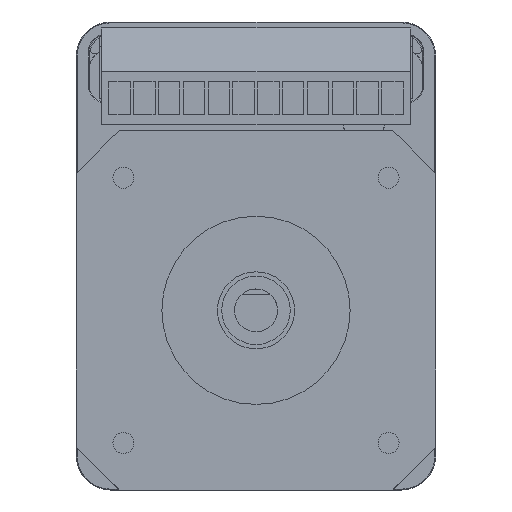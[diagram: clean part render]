
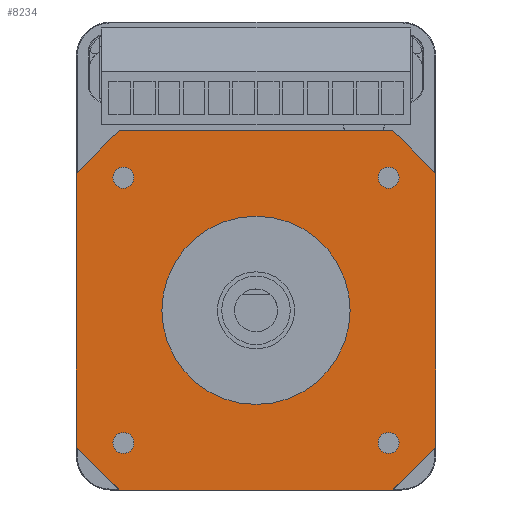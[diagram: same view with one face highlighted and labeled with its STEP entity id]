
A CAD part, front view. The second image highlights one B-rep face of the part: STEP entity #8234.
In plain terms, the highlighted planar face has unit normal (0, -1, 0).
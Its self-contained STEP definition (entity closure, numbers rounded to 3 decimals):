
#169=CIRCLE('',#8612,1.23);
#170=CIRCLE('',#8613,1.23);
#171=CIRCLE('',#8614,1.23);
#172=CIRCLE('',#8615,1.23);
#173=CIRCLE('',#8616,11.);
#478=ORIENTED_EDGE('',*,*,#2108,.F.);
#479=ORIENTED_EDGE('',*,*,#2109,.F.);
#480=ORIENTED_EDGE('',*,*,#2110,.F.);
#481=ORIENTED_EDGE('',*,*,#2111,.F.);
#482=ORIENTED_EDGE('',*,*,#2112,.F.);
#483=ORIENTED_EDGE('',*,*,#2095,.F.);
#484=ORIENTED_EDGE('',*,*,#2113,.T.);
#485=ORIENTED_EDGE('',*,*,#2083,.F.);
#486=ORIENTED_EDGE('',*,*,#2114,.T.);
#487=ORIENTED_EDGE('',*,*,#2072,.F.);
#488=ORIENTED_EDGE('',*,*,#2115,.T.);
#489=ORIENTED_EDGE('',*,*,#2061,.F.);
#490=ORIENTED_EDGE('',*,*,#2116,.T.);
#2061=EDGE_CURVE('',#2879,#2880,#3418,.T.);
#2072=EDGE_CURVE('',#2889,#2890,#3429,.T.);
#2083=EDGE_CURVE('',#2899,#2900,#3440,.T.);
#2095=EDGE_CURVE('',#2909,#2910,#3452,.T.);
#2108=EDGE_CURVE('',#2919,#2919,#169,.T.);
#2109=EDGE_CURVE('',#2920,#2920,#170,.T.);
#2110=EDGE_CURVE('',#2921,#2921,#171,.T.);
#2111=EDGE_CURVE('',#2922,#2922,#172,.T.);
#2112=EDGE_CURVE('',#2923,#2923,#173,.T.);
#2113=EDGE_CURVE('',#2909,#2900,#3462,.F.);
#2114=EDGE_CURVE('',#2899,#2890,#3463,.F.);
#2115=EDGE_CURVE('',#2889,#2880,#3464,.F.);
#2116=EDGE_CURVE('',#2879,#2910,#3465,.F.);
#2879=VERTEX_POINT('',#11028);
#2880=VERTEX_POINT('',#11030);
#2889=VERTEX_POINT('',#11051);
#2890=VERTEX_POINT('',#11052);
#2899=VERTEX_POINT('',#11073);
#2900=VERTEX_POINT('',#11074);
#2909=VERTEX_POINT('',#11095);
#2910=VERTEX_POINT('',#11097);
#2919=VERTEX_POINT('',#11121);
#2920=VERTEX_POINT('',#11123);
#2921=VERTEX_POINT('',#11125);
#2922=VERTEX_POINT('',#11127);
#2923=VERTEX_POINT('',#11129);
#3418=LINE('',#11029,#3990);
#3429=LINE('',#11050,#4001);
#3440=LINE('',#11072,#4012);
#3452=LINE('',#11096,#4024);
#3462=LINE('',#11130,#4034);
#3463=LINE('',#11131,#4035);
#3464=LINE('',#11132,#4036);
#3465=LINE('',#11133,#4037);
#3990=VECTOR('',#9236,1000.);
#4001=VECTOR('',#9249,1000.);
#4012=VECTOR('',#9262,1000.);
#4024=VECTOR('',#9276,1000.);
#4034=VECTOR('',#9306,1000.);
#4035=VECTOR('',#9307,1000.);
#4036=VECTOR('',#9308,1000.);
#4037=VECTOR('',#9309,1000.);
#4560=EDGE_LOOP('',(#478));
#4561=EDGE_LOOP('',(#479));
#4562=EDGE_LOOP('',(#480));
#4563=EDGE_LOOP('',(#481));
#4564=EDGE_LOOP('',(#482));
#4565=EDGE_LOOP('',(#483,#484,#485,#486,#487,#488,#489,#490));
#5022=FACE_BOUND('',#4560,.T.);
#5023=FACE_BOUND('',#4561,.T.);
#5024=FACE_BOUND('',#4562,.T.);
#5025=FACE_BOUND('',#4563,.T.);
#5026=FACE_BOUND('',#4564,.T.);
#5027=FACE_BOUND('',#4565,.T.);
#5484=PLANE('',#8611);
#8234=ADVANCED_FACE('',(#5022,#5023,#5024,#5025,#5026,#5027),#5484,.F.);
#8611=AXIS2_PLACEMENT_3D('',#11119,#9294,#9295);
#8612=AXIS2_PLACEMENT_3D('',#11120,#9296,#9297);
#8613=AXIS2_PLACEMENT_3D('',#11122,#9298,#9299);
#8614=AXIS2_PLACEMENT_3D('',#11124,#9300,#9301);
#8615=AXIS2_PLACEMENT_3D('',#11126,#9302,#9303);
#8616=AXIS2_PLACEMENT_3D('',#11128,#9304,#9305);
#9236=DIRECTION('',(1.,0.,0.));
#9249=DIRECTION('',(0.,0.,-1.));
#9262=DIRECTION('',(-1.,0.,0.));
#9276=DIRECTION('',(0.,0.,1.));
#9294=DIRECTION('',(0.,1.,0.));
#9295=DIRECTION('',(0.,0.,1.));
#9296=DIRECTION('',(0.,-1.,0.));
#9297=DIRECTION('',(1.,0.,0.));
#9298=DIRECTION('',(0.,-1.,0.));
#9299=DIRECTION('',(1.,0.,0.));
#9300=DIRECTION('',(0.,-1.,0.));
#9301=DIRECTION('',(1.,0.,0.));
#9302=DIRECTION('',(0.,-1.,0.));
#9303=DIRECTION('',(1.,0.,0.));
#9304=DIRECTION('',(0.,-1.,0.));
#9305=DIRECTION('',(1.,0.,0.));
#9306=DIRECTION('',(-0.707,0.,0.707));
#9307=DIRECTION('',(-0.707,0.,-0.707));
#9308=DIRECTION('',(0.707,0.,-0.707));
#9309=DIRECTION('',(0.707,0.,0.707));
#11028=CARTESIAN_POINT('',(-16.,0.,21.));
#11029=CARTESIAN_POINT('',(-21.,0.,21.));
#11030=CARTESIAN_POINT('',(16.,0.,21.));
#11050=CARTESIAN_POINT('',(21.,0.,21.));
#11051=CARTESIAN_POINT('',(21.,0.,16.));
#11052=CARTESIAN_POINT('',(21.,0.,-16.));
#11072=CARTESIAN_POINT('',(21.,0.,-21.));
#11073=CARTESIAN_POINT('',(16.,0.,-21.));
#11074=CARTESIAN_POINT('',(-16.,0.,-21.));
#11095=CARTESIAN_POINT('',(-21.,0.,-16.));
#11096=CARTESIAN_POINT('',(-21.,0.,-21.));
#11097=CARTESIAN_POINT('',(-21.,0.,16.));
#11119=CARTESIAN_POINT('',(0.,0.,0.));
#11120=CARTESIAN_POINT('',(15.5,0.,-15.5));
#11121=CARTESIAN_POINT('',(16.73,0.,-15.5));
#11122=CARTESIAN_POINT('',(-15.5,0.,-15.5));
#11123=CARTESIAN_POINT('',(-14.271,0.,-15.5));
#11124=CARTESIAN_POINT('',(-15.5,0.,15.5));
#11125=CARTESIAN_POINT('',(-14.271,0.,15.5));
#11126=CARTESIAN_POINT('',(15.5,0.,15.5));
#11127=CARTESIAN_POINT('',(16.73,0.,15.5));
#11128=CARTESIAN_POINT('',(0.,0.,0.));
#11129=CARTESIAN_POINT('',(11.,0.,0.));
#11130=CARTESIAN_POINT('',(-21.,0.,-16.));
#11131=CARTESIAN_POINT('',(16.,0.,-21.));
#11132=CARTESIAN_POINT('',(21.,0.,16.));
#11133=CARTESIAN_POINT('',(-16.,0.,21.));
